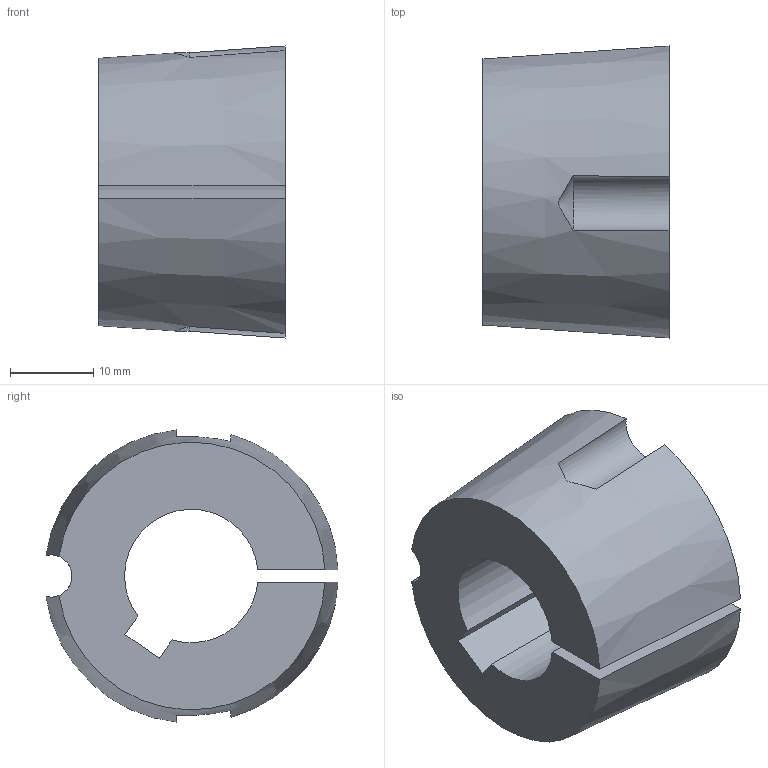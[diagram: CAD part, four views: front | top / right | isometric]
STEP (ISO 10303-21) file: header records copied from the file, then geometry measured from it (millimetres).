
FILE_DESCRIPTION( ( 'STEP AP203' ), '1' );
FILE_NAME( 'D:/export/antriebselemente/spannbuchsen_und_spannsaetze/taper-spannbuchsen_1008_bis_5050/taper-spannbuchsen_62250116Isometric_8.stp', '2018-12-11T11:10:56', ( '' ), ( '' ), ' ', 'PARTsolutions', ' ' );
FILE_SCHEMA( ( 'CONFIG_CONTROL_DESIGN' ) );
Length unit declared in the file: millimetre
Products named in the file (1): _taper-spannbuchsen_62250116
Bounding box: 22.3 x 35.01 x 35.02 mm (x, y, z)
Volume: 14132.1 mm3; surface area: 5358.6 mm2
Topology: 1 solids, 1 shells, 16 faces, 42 edges, 28 vertices
Faces by surface type: plane 7, cylinder 5, cone 4
Entity records: 602 total; most frequent: CARTESIAN_POINT 163, ORIENTED_EDGE 84, DIRECTION 82, EDGE_CURVE 42, AXIS2_PLACEMENT_3D 33, VERTEX_POINT 28, ADVANCED_FACE 16, FACE_OUTER_BOUND 16
